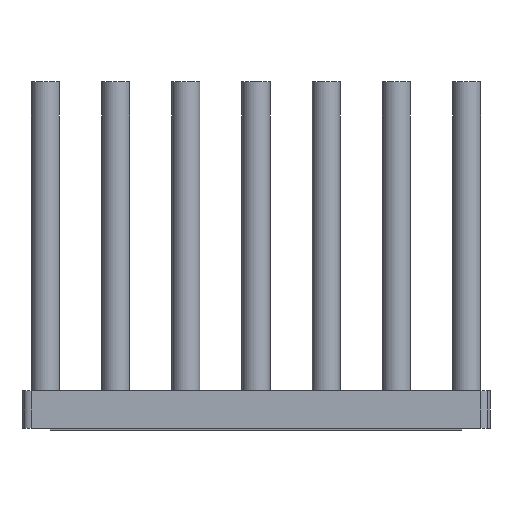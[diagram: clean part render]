
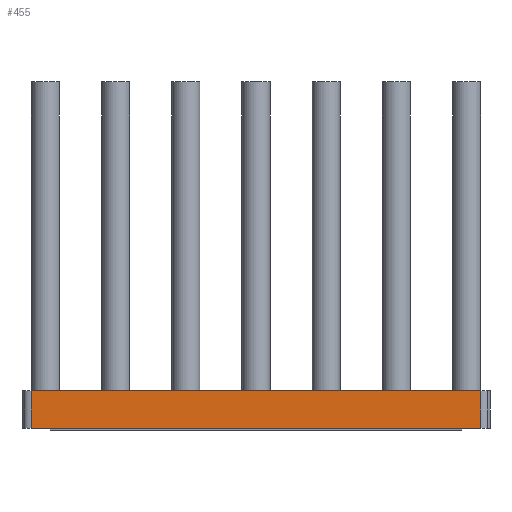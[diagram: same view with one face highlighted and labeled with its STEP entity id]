
A CAD part, front view. The second image highlights one B-rep face of the part: STEP entity #455.
In plain terms, the highlighted planar face has unit normal (0, -1, 0).
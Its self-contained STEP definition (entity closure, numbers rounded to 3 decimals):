
#455=ADVANCED_FACE('1:1294',(#935),#936,.T.);
#935=FACE_OUTER_BOUND('',#1501,.T.);
#936=PLANE('',#1502);
#1501=EDGE_LOOP('',(#2593,#2594,#2595,#2596));
#1502=AXIS2_PLACEMENT_3D('',#2597,#2598,#2599);
#2593=ORIENTED_EDGE('',*,*,#3520,.F.);
#2594=ORIENTED_EDGE('',*,*,#3522,.T.);
#2595=ORIENTED_EDGE('',*,*,#3099,.F.);
#2596=ORIENTED_EDGE('',*,*,#3514,.F.);
#2597=CARTESIAN_POINT('',(0.0,-12.5,-6.41));
#2598=DIRECTION('',(0.0,-1.0,0.0));
#2599=DIRECTION('',(1.0,0.0,0.0));
#3099=EDGE_CURVE('1:1435',#3615,#3617,#3618,.T.);
#3514=EDGE_CURVE('1:1318',#4240,#3615,#4242,.T.);
#3520=EDGE_CURVE('1:1486',#4248,#4240,#4250,.T.);
#3522=EDGE_CURVE('1:1312',#4248,#3617,#4252,.T.);
#3615=VERTEX_POINT('',#4357);
#3617=VERTEX_POINT('',#4359);
#3618=LINE('',#4360,#4361);
#4240=VERTEX_POINT('',#5090);
#4242=LINE('',#5092,#5093);
#4248=VERTEX_POINT('',#5100);
#4250=LINE('',#5102,#5103);
#4252=LINE('',#5105,#5106);
#4357=CARTESIAN_POINT('',(-12.0,-12.5,-6.41));
#4359=CARTESIAN_POINT('',(-12.0,-12.5,-4.41));
#4360=CARTESIAN_POINT('',(-12.0,-12.5,-6.41));
#4361=VECTOR('',#5222,1.0);
#5090=CARTESIAN_POINT('',(12.0,-12.5,-6.41));
#5092=CARTESIAN_POINT('',(12.5,-12.5,-6.41));
#5093=VECTOR('',#5942,1.0);
#5100=CARTESIAN_POINT('',(12.0,-12.5,-4.41));
#5102=CARTESIAN_POINT('',(12.0,-12.5,-6.41));
#5103=VECTOR('',#5953,1.0);
#5105=CARTESIAN_POINT('',(12.5,-12.5,-4.41));
#5106=VECTOR('',#5954,1.0);
#5222=DIRECTION('',(0.0,0.0,1.0));
#5942=DIRECTION('',(-1.0,0.0,0.0));
#5953=DIRECTION('',(-0.0,-0.0,-1.0));
#5954=DIRECTION('',(-1.0,0.0,0.0));
